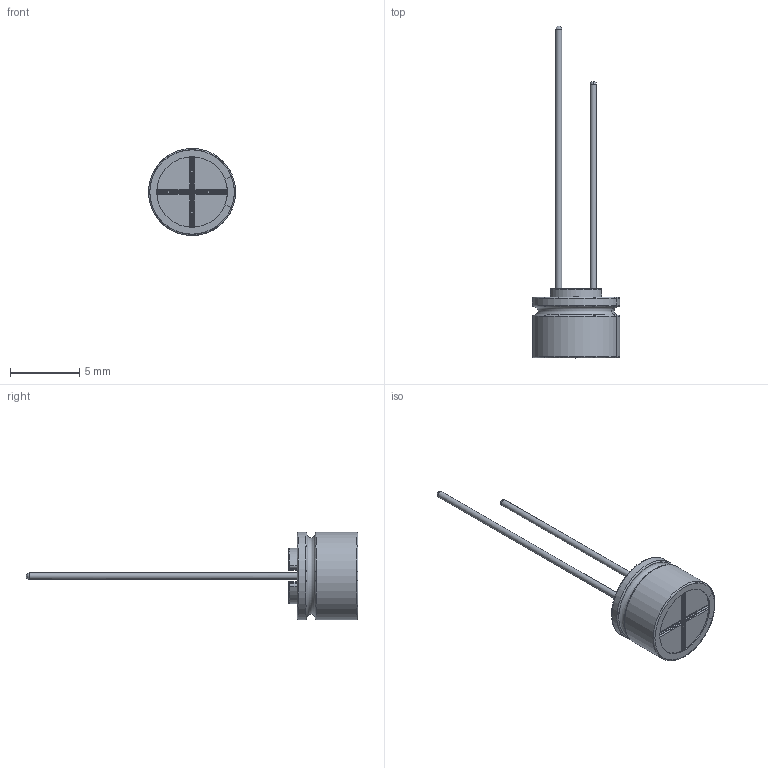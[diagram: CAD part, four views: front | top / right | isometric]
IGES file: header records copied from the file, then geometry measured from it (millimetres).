
Start section: JAMA-IS VERSION  1.0
Bounding box: 6.29 x 24 x 6.3 mm (x, y, z)
Surface area: 434.1 mm2 (no closed solid volume)
Topology: 0 solids, 0 shells, 120 faces, 1287 edges, 1276 vertices
Faces by surface type: bspline 120
